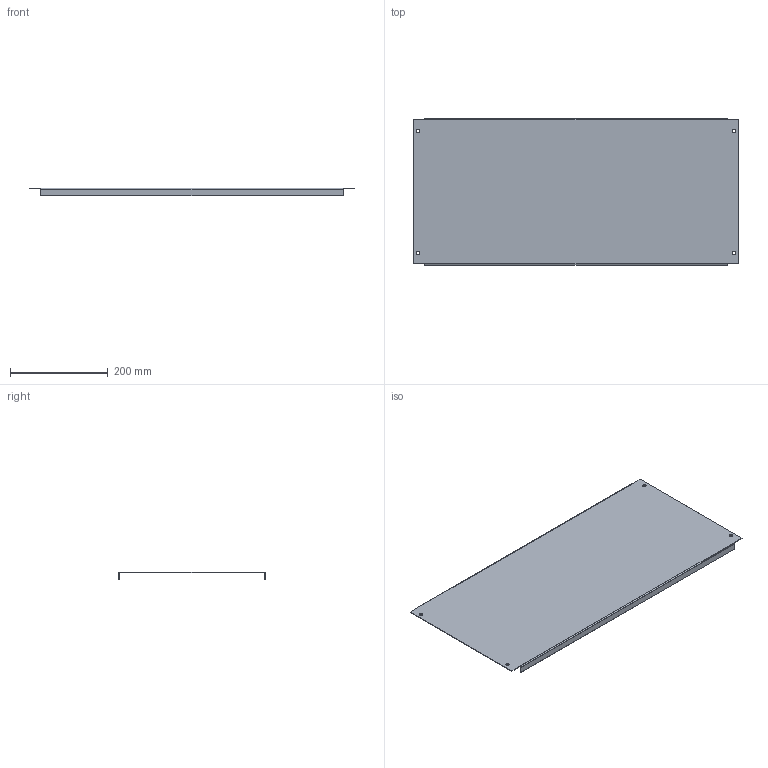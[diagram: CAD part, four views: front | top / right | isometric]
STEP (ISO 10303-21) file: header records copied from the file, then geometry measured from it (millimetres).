
FILE_DESCRIPTION (( 'STEP AP203' ), '1' );
FILE_NAME ('MB 30.70 Ïàíåëü ìîäóëüíàÿ.STEP', '2012-11-21T07:14:12', ( 'system' ), ( '' ), 'SwSTEP 2.0', 'SolidWorks 2012', '' );
FILE_SCHEMA (( 'CONFIG_CONTROL_DESIGN' ));
Length unit declared in the file: millimetre
Products named in the file (1): MB 30.70 Ïàíåëü ìîäóëüíàÿ
Bounding box: 665 x 299 x 15 mm (x, y, z)
Volume: 257505.9 mm3; surface area: 431658.1 mm2
Topology: 1 solids, 1 shells, 34 faces, 80 edges, 48 vertices
Faces by surface type: plane 22, cylinder 12
Entity records: 1053 total; most frequent: DIRECTION 174, CARTESIAN_POINT 163, ORIENTED_EDGE 160, EDGE_CURVE 80, AXIS2_PLACEMENT_3D 59, LINE 56, VECTOR 56, VERTEX_POINT 48
